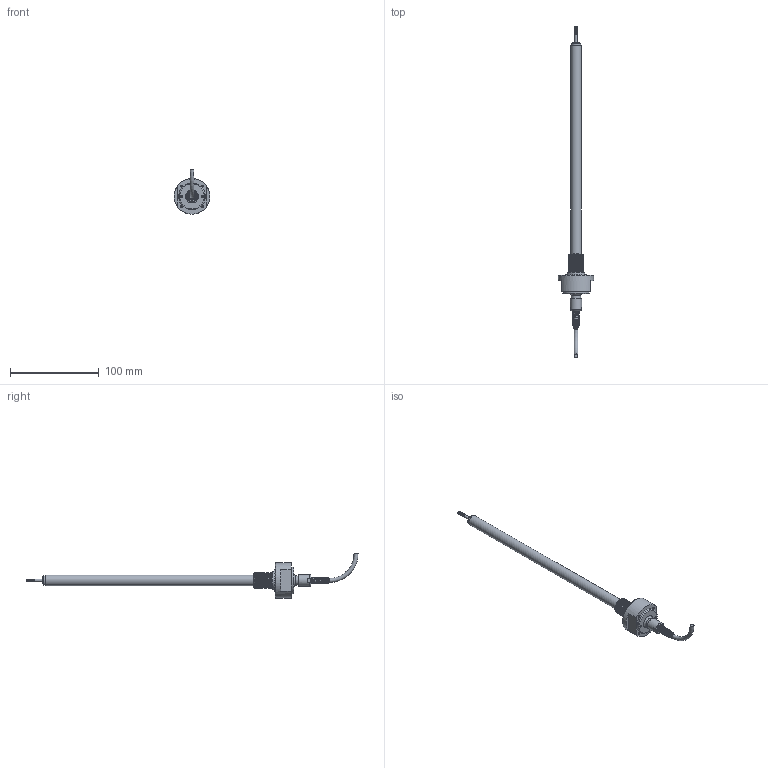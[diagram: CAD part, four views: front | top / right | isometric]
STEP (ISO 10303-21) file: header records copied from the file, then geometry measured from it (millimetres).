
FILE_DESCRIPTION( ( 'STEP AP214' ), '1' );
FILE_NAME( 'N:/Engineering/CAD_Solid/LVDT/HYD/Kunden-3D-Modell/SM140-HYD-18-K.stp', '2011-12-14T13:51:54', ( ' ' ), ( ' ' ), 'XStep 1.0', ' ', ' ' );
FILE_SCHEMA( ( 'CONFIG_CONTROL_DESIGN) ( )' ) );
Length unit declared in the file: metre
Products named in the file (12): 1; 2; 3; 4; 5; 6; 7; 8; 9; 10; 11; 12
Bounding box: 40 x 374.25 x 50 mm (x, y, z)
Volume: 1245.2 mm3; surface area: 21992.7 mm2
Topology: 2 solids, 76 shells, 80 faces, 293 edges, 243 vertices
Faces by surface type: plane 24, cylinder 23, cone 16, bspline 12, torus 5
Full cylindrical faces by diameter (mm): 2.5 x5, 2.6 x2, 3 x1, 4 x1, 4.5 x1, 6 x1, 8 x1, 8.2 x1, 10.6 x1, 11 x1, 12 x1, 13 x1, 15.8 x1, 24 x1, 30 x1, 40 x1
Entity records: 18919 total; most frequent: CARTESIAN_POINT 16144, DIRECTION 458, ORIENTED_EDGE 219, EDGE_CURVE 216, VERTEX_POINT 216, AXIS2_PLACEMENT_3D 215, CIRCLE 136, EDGE_LOOP 133
